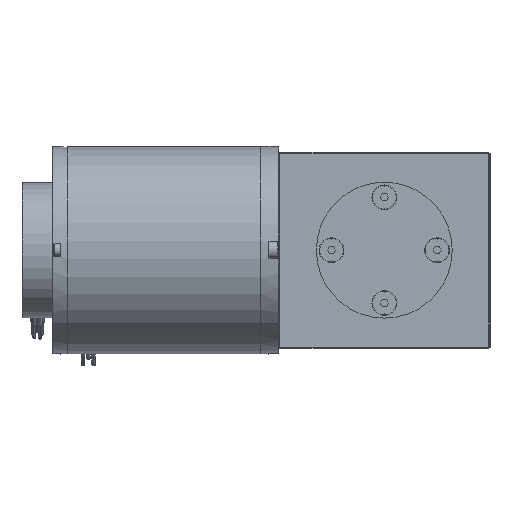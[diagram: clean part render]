
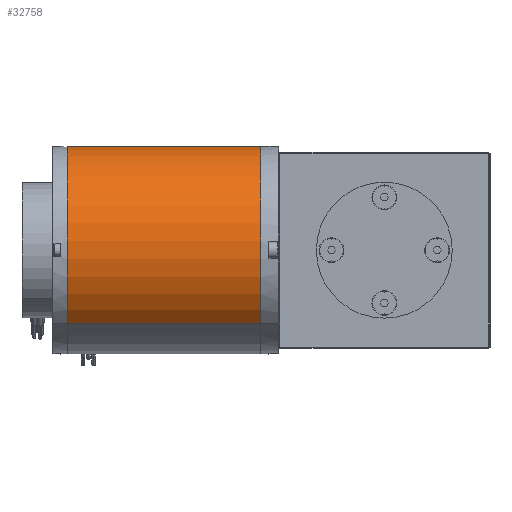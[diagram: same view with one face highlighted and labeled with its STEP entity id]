
A CAD part, left-side view. The second image highlights one B-rep face of the part: STEP entity #32758.
In plain terms, the highlighted cylindrical face has radius 43.69 mm (diameter 87.38 mm), a partial arc.
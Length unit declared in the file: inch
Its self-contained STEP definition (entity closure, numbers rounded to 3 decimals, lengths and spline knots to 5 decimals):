
#136 = DIRECTION ( 'NONE',  ( 0., -1., 0. ) ) ;
#499 = DIRECTION ( 'NONE',  ( 0., -1., 0. ) ) ;
#1614 = CARTESIAN_POINT ( 'NONE',  ( -2.29269, 8.92982, 3.03396 ) ) ;
#3941 = EDGE_LOOP ( 'NONE', ( #27826, #21161, #32909, #25866 ) ) ;
#5208 = DIRECTION ( 'NONE',  ( 0., 1., 0. ) ) ;
#5790 = VERTEX_POINT ( 'NONE', #49963 ) ;
#8718 = EDGE_CURVE ( 'NONE', #5790, #21029, #11466, .T. ) ;
#9083 = CARTESIAN_POINT ( 'NONE',  ( 0.13987, 5.73179, 5.46651 ) ) ;
#9529 = DIRECTION ( 'NONE',  ( -0.707, 0., -0.707 ) ) ;
#11466 = CIRCLE ( 'NONE', #15010, 1.72008 ) ;
#15010 = AXIS2_PLACEMENT_3D ( 'NONE', #32238, #499, #9529 ) ;
#18528 = LINE ( 'NONE', #28121, #54513 ) ;
#21029 = VERTEX_POINT ( 'NONE', #1614 ) ;
#21161 = ORIENTED_EDGE ( 'NONE', *, *, #40815, .F. ) ;
#22666 = CARTESIAN_POINT ( 'NONE',  ( -1.07641, 0.86667, 4.25024 ) ) ;
#23513 = EDGE_CURVE ( 'NONE', #57372, #5790, #39735, .T. ) ;
#23874 = CARTESIAN_POINT ( 'NONE',  ( 0.13987, 0.86667, 5.46651 ) ) ;
#25489 = CYLINDRICAL_SURFACE ( 'NONE', #41127, 1.72008 ) ;
#25866 = ORIENTED_EDGE ( 'NONE', *, *, #8718, .T. ) ;
#27826 = ORIENTED_EDGE ( 'NONE', *, *, #42304, .F. ) ;
#28121 = CARTESIAN_POINT ( 'NONE',  ( -2.29269, 0.86667, 3.03396 ) ) ;
#28471 = VERTEX_POINT ( 'NONE', #44271 ) ;
#31514 = DIRECTION ( 'NONE',  ( 0., 1., 0. ) ) ;
#31727 = AXIS2_PLACEMENT_3D ( 'NONE', #49607, #136, #54094 ) ;
#32238 = CARTESIAN_POINT ( 'NONE',  ( -1.07641, 8.92982, 4.25024 ) ) ;
#32758 = ADVANCED_FACE ( 'NONE', ( #50970 ), #25489, .T. ) ;
#32909 = ORIENTED_EDGE ( 'NONE', *, *, #23513, .T. ) ;
#39735 = LINE ( 'NONE', #23874, #58060 ) ;
#40228 = DIRECTION ( 'NONE',  ( 0.707, 0., 0.707 ) ) ;
#40815 = EDGE_CURVE ( 'NONE', #57372, #28471, #54559, .T. ) ;
#41127 = AXIS2_PLACEMENT_3D ( 'NONE', #22666, #31514, #40228 ) ;
#42304 = EDGE_CURVE ( 'NONE', #28471, #21029, #18528, .T. ) ;
#44271 = CARTESIAN_POINT ( 'NONE',  ( -2.29269, 5.73179, 3.03396 ) ) ;
#49607 = CARTESIAN_POINT ( 'NONE',  ( -1.07641, 5.73179, 4.25024 ) ) ;
#49963 = CARTESIAN_POINT ( 'NONE',  ( 0.13987, 8.92982, 5.46651 ) ) ;
#50970 = FACE_OUTER_BOUND ( 'NONE', #3941, .T. ) ;
#54094 = DIRECTION ( 'NONE',  ( -0.707, 0., -0.707 ) ) ;
#54513 = VECTOR ( 'NONE', #5208, 39.37008 ) ;
#54559 = CIRCLE ( 'NONE', #31727, 1.72008 ) ;
#55366 = DIRECTION ( 'NONE',  ( 0., 1., 0. ) ) ;
#57372 = VERTEX_POINT ( 'NONE', #9083 ) ;
#58060 = VECTOR ( 'NONE', #55366, 39.37008 ) ;
